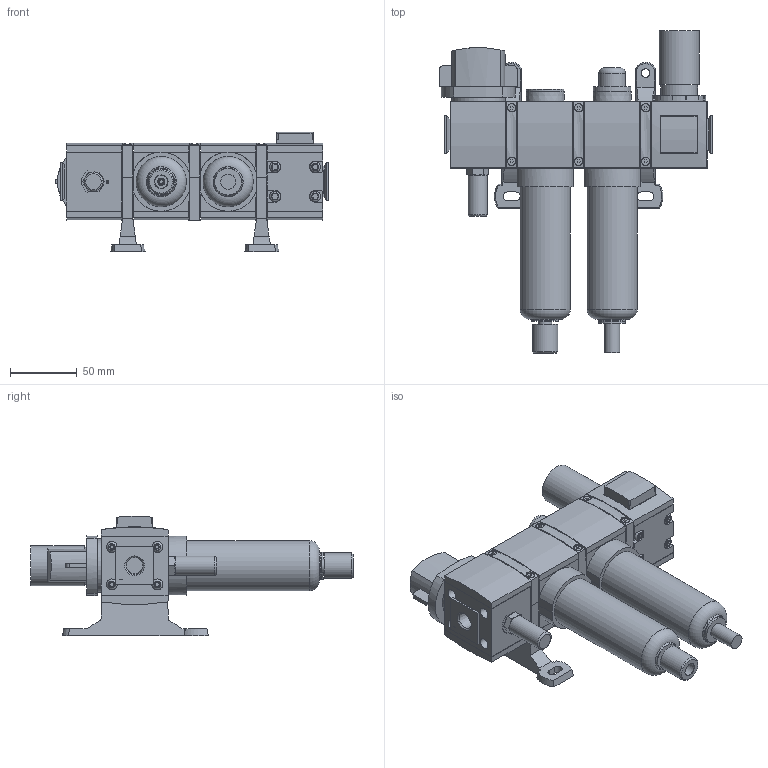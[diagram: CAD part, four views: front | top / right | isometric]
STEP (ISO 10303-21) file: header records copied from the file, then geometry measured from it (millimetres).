
FILE_DESCRIPTION( ( 'STEP AP214' ), '1' );
FILE_NAME( 'p:/temp/worker_260/temp/exporttempdir_5076_277_dqJYg/format_0/07292020-200232_gen_8438.stp', '2020-02-07T19:29:34', ( '' ), ( '' ), ' ', 'PARTsolutions', ' ' );
FILE_SCHEMA( ( 'AUTOMOTIVE_DESIGN { 1 0 10303 214 1 1 1 1 }' ) );
Length unit declared in the file: millimetre
Products named in the file (19): 07292020-200232_gen_8438; _438683-008-FL; _1437740-001-R-0; _M2MN_651; _437742-001-100_651; _G651ASLA0B00A00_LS; _514892-010-F; _439851-002_; _434133-001; _440512-002; _G651ASLA0A00A00_LS; _439851-001_; _501862-002; _434510-010-F-L; _1437740-001-R-1; _438047-009_651_gauge; _433894-001_BONNET; _504924-001-STANDARD_651; _504323-004
Assembly tree (27 placements, depth 2):
  07292020-200232_gen_8438
    _438683-008-FL
    _1437740-001-R-0  x7
    _M2MN_651
    _437742-001-100_651
    _G651ASLA0B00A00_LS  x2
    _514892-010-F  x2
    _439851-002_
    _434133-001  x2
    _440512-002
    _G651ASLA0A00A00_LS
    _439851-001_
    _501862-002
    _434510-010-F-L
    _1437740-001-R-1
    _438047-009_651_gauge
    _433894-001_BONNET
    _504924-001-STANDARD_651
    _504323-004
Bounding box: 204 x 240.77 x 89.41 mm (x, y, z)
Volume: 913416.6 mm3; surface area: 217091.1 mm2
Topology: 27 solids, 27 shells, 1008 faces, 2444 edges, 1582 vertices
Faces by surface type: plane 663, cylinder 252, cone 69, torus 16, bspline 6, sphere 2
Full cylindrical faces by diameter (mm): 2.5 x6, 2.8 x2, 3 x2, 3.5 x6, 4.2 x4, 4.3 x4, 5 x1, 5.6 x4, 6 x6, 6.5 x2, 8 x4, 8.2 x4, 9.728 x2, 11.3 x1, 13.081 x1, 14.224 x1, 15.1 x1, 19 x1, 19.847 x1, 20 x5, 20.2 x2, 22.25 x2, 22.4 x2, 25.5 x4, 27.53 x1, 28 x1, 30 x1, 35 x2, 37.5 x2, 40 x1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
Entity records: 30267 total; most frequent: CARTESIAN_POINT 4818, DIRECTION 3927, ORIENTED_EDGE 3658, EDGE_CURVE 1829, AXIS2_PLACEMENT_3D 1372, VERTEX_POINT 1256, LINE 1183, VECTOR 1183
